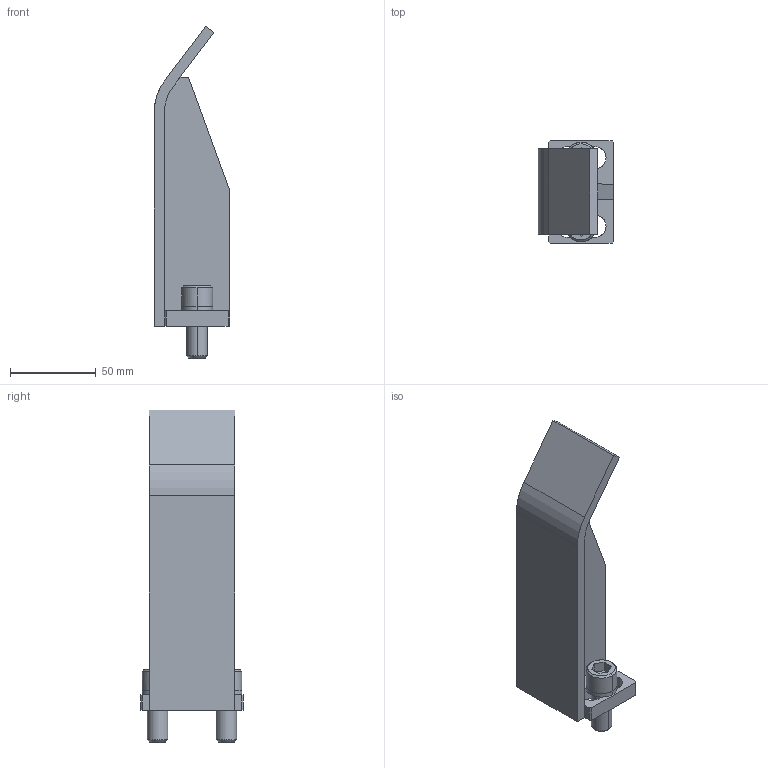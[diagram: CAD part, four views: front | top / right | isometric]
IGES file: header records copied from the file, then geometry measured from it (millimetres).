
Global section: file name: E:\UnigraphicsGraphicData\MISUMI_PRESS-PARTS\IGES\3d_nstfa-135-m12_01628_r00.igs; native system: NX V5.0; preprocessor: UGS NX IGES V5.0; author: MISUMI; date: 20110105.162128; units: millimetre
Bounding box: 44 x 60 x 193.5 mm (x, y, z)
Surface area: 40675.8 mm2 (no closed solid volume)
Topology: 0 solids, 0 shells, 83 faces, 516 edges, 516 vertices
Faces by surface type: bspline 83
